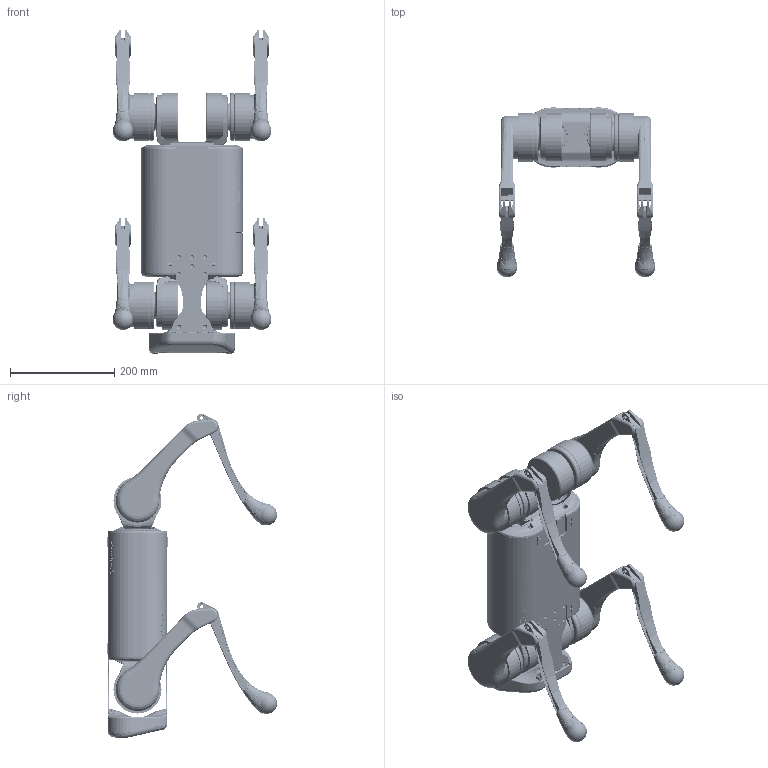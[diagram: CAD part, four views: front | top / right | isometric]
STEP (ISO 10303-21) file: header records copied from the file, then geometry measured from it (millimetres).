
FILE_DESCRIPTION (( 'STEP AP203' ), '1' );
FILE_NAME ('A1-潠趙.STEP', '2020-08-14T08:47:42', ( '' ), ( '' ), 'SwSTEP 2.0', 'SolidWorks 2016', '' );
FILE_SCHEMA (( 'CONFIG_CONTROL_DESIGN' ));
Length unit declared in the file: millimetre
Products named in the file (2): A1-潠趙
Bounding box: 304.1 x 325.67 x 621.61 mm (x, y, z)
Volume: 6637577.6 mm3; surface area: 1480455.8 mm2
Topology: 71 solids, 75 shells, 6000 faces, 14813 edges, 8977 vertices
Faces by surface type: cylinder 2227, plane 1520, bspline 1051, torus 706, cone 358, sphere 138
Entity records: 287140 total; most frequent: CARTESIAN_POINT 152051, ORIENTED_EDGE 29286, DIRECTION 27362, EDGE_CURVE 14643, AXIS2_PLACEMENT_3D 10872, VERTEX_POINT 8929, EDGE_LOOP 6294, ADVANCED_FACE 6000
